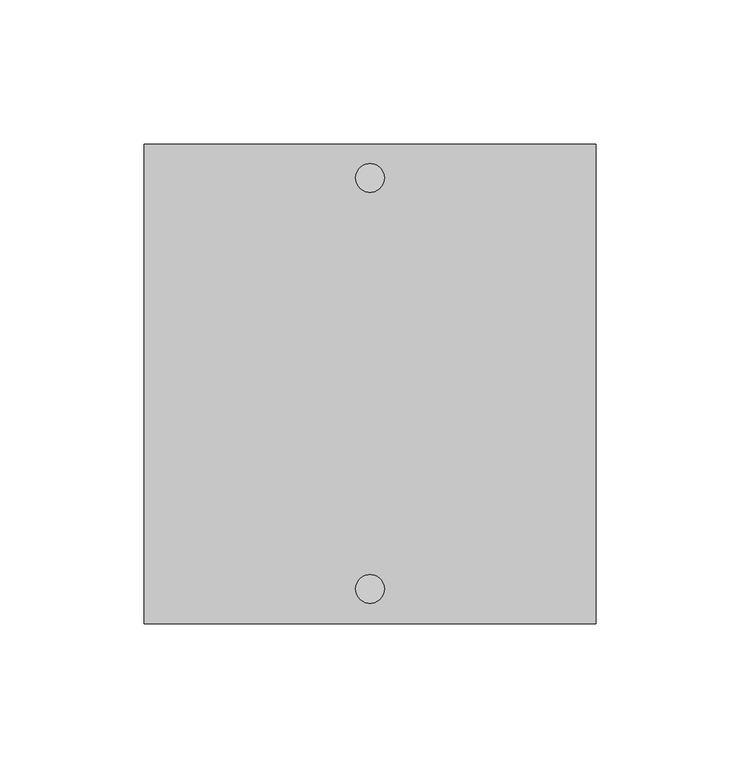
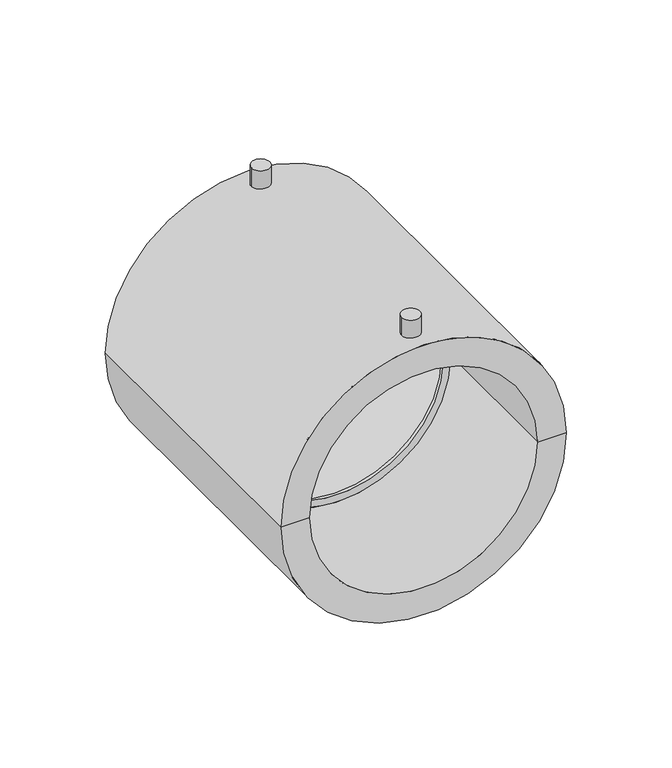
"""IFC4 building model written with IfcOpenShell, lengths in millimetres: pipe fitting geometry, NIRON RED electrico manguito : Estándar."""

from ifc_helpers import new_model, si_unit, point, frame, frame_2d, origin, place, context, project, spatial, polyline, circle_curve, trimmed, segment, composite_curve, outline, extrude, source, transform, mapped, element, save
from ifc_brep_helpers import plane_surface, cylinder_surface, revolved_surface, advanced_brep


def pipe_fitting_718a9c5b(model_context):
    return source(origin(), model_context, "Body", "SolidModel", [
        advanced_brep(
        [(78.25, 166.0, 0.0), (-78.25, 166.0, 0.0), (-62.5, 166.0, 0.0), (62.5, 166.0, 0.0), (78.25, 0.0, 0.0), (-78.25, 0.0, 0.0), (62.5, 0.0, 0.0), (-62.5, 0.0, 0.0), (62.5, 82.0, 0.0), (-62.5, 82.0, 0.0), (58.5, 82.0, 0.0), (-58.5, 82.0, 0.0), (58.5, 84.0, 0.0), (-58.5, 84.0, 0.0), (62.5, 84.0, 0.0), (-62.5, 84.0, 0.0)],
        [
            (0, 1, circle_curve(frame((0.0, 166.0, 0.0), z_axis=(0.0, 1.0, 0.0), x_axis=(-1.0, 0.0, 0.0)), 78.25)),
            (1, 2),
            (2, 3, circle_curve(frame((0.0, 166.0, 0.0), z_axis=(0.0, -1.0, 0.0), x_axis=(-1.0, 0.0, 0.0)), 62.5)),
            (3, 0),
            (1, 0, circle_curve(frame((0.0, 166.0, 0.0), z_axis=(0.0, 1.0, 0.0), x_axis=(-1.0, 0.0, 0.0)), 78.25)),
            (3, 2, circle_curve(frame((0.0, 166.0, 0.0), z_axis=(0.0, -1.0, 0.0), x_axis=(-1.0, 0.0, 0.0)), 62.5)),
            (4, 5, circle_curve(frame((0.0, 0.0, 0.0), z_axis=(0.0, 1.0, 0.0), x_axis=(-1.0, 0.0, 0.0)), 78.25)),
            (5, 1),
            (0, 4),
            (5, 4, circle_curve(frame((0.0, 0.0, 0.0), z_axis=(0.0, 1.0, 0.0), x_axis=(-1.0, 0.0, 0.0)), 78.25)),
            (6, 7, circle_curve(frame((0.0, 0.0, 0.0), z_axis=(0.0, 1.0, 0.0), x_axis=(-1.0, 0.0, 0.0)), 62.5)),
            (7, 5),
            (4, 6),
            (7, 6, circle_curve(frame((0.0, 0.0, 0.0), z_axis=(0.0, 1.0, 0.0), x_axis=(-1.0, 0.0, 0.0)), 62.5)),
            (8, 9, circle_curve(frame((0.0, 82.0, 0.0), z_axis=(0.0, 1.0, 0.0), x_axis=(-1.0, 0.0, 0.0)), 62.5)),
            (9, 7),
            (6, 8),
            (9, 8, circle_curve(frame((0.0, 82.0, 0.0), z_axis=(0.0, 1.0, 0.0), x_axis=(-1.0, 0.0, 0.0)), 62.5)),
            (10, 11, circle_curve(frame((0.0, 82.0, 0.0), z_axis=(0.0, 1.0, 0.0), x_axis=(-1.0, 0.0, 0.0)), 58.5)),
            (11, 9),
            (8, 10),
            (11, 10, circle_curve(frame((0.0, 82.0, 0.0), z_axis=(0.0, 1.0, 0.0), x_axis=(-1.0, 0.0, 0.0)), 58.5)),
            (12, 13, circle_curve(frame((0.0, 84.0, 0.0), z_axis=(0.0, 1.0, 0.0), x_axis=(-1.0, 0.0, 0.0)), 58.5)),
            (13, 11),
            (10, 12),
            (13, 12, circle_curve(frame((0.0, 84.0, 0.0), z_axis=(0.0, 1.0, 0.0), x_axis=(-1.0, 0.0, 0.0)), 58.5)),
            (14, 15, circle_curve(frame((0.0, 84.0, 0.0), z_axis=(0.0, 1.0, 0.0), x_axis=(-1.0, 0.0, 0.0)), 62.5)),
            (15, 13),
            (12, 14),
            (15, 14, circle_curve(frame((0.0, 84.0, 0.0), z_axis=(0.0, 1.0, 0.0), x_axis=(-1.0, 0.0, 0.0)), 62.5)),
            (2, 15),
            (14, 3),
        ],
        [
            plane_surface(frame((0.0, 166.0, 0.0), z_axis=(0.0, 1.0, 0.0), x_axis=(-1.0, 0.0, 0.0))),
            cylinder_surface(frame((0.0, 191.0, 0.0), z_axis=(0.0, -1.0, 0.0), x_axis=(-1.0, 0.0, 0.0)), 78.25),
            plane_surface(frame((0.0, 0.0, 0.0), z_axis=(0.0, -1.0, 0.0), x_axis=(-1.0, 0.0, 0.0))),
            revolved_surface(polyline([(-62.5, 0.0, 0.0), (-62.5, 82.0, 0.0)]), (0.0, 191.0, 0.0), (0.0, -1.0, 0.0)),
            plane_surface(frame((0.0, 82.0, 0.0), z_axis=(0.0, -1.0, 0.0), x_axis=(-1.0, 0.0, 0.0))),
            revolved_surface(polyline([(-58.5, 82.0, 0.0), (-58.5, 84.0, 0.0)]), (0.0, 191.0, 0.0), (0.0, -1.0, 0.0)),
            plane_surface(frame((0.0, 84.0, 0.0), z_axis=(0.0, 1.0, 0.0), x_axis=(-1.0, 0.0, 0.0))),
            revolved_surface(polyline([(-62.5, 84.0, 0.0), (-62.5, 166.0, 0.0)]), (0.0, 191.0, 0.0), (0.0, -1.0, 0.0)),
        ],
        [
            (0, [[1, 2, 3, 4]]),
            (0, [[5, -4, 6, -2]]),
            (1, [[7, 8, -1, 9]]),
            (1, [[10, -9, -5, -8]]),
            (2, [[11, 12, -7, 13]]),
            (2, [[14, -13, -10, -12]]),
            (3, [[15, 16, -11, 17]]),
            (3, [[18, -17, -14, -16]]),
            (4, [[19, 20, -15, 21]]),
            (4, [[22, -21, -18, -20]]),
            (5, [[23, 24, -19, 25]]),
            (5, [[26, -25, -22, -24]]),
            (6, [[27, 28, -23, 29]]),
            (6, [[30, -29, -26, -28]]),
            (7, [[-3, 31, -27, 32]]),
            (7, [[-6, -32, -30, -31]]),
        ],
    ),
        extrude(outline(composite_curve([segment(trimmed(circle_curve(frame_2d((0.0, 12.0)), 5.0), [point((-5.0, 12.0))], [point((5.0, 12.0))], False, "CARTESIAN"), True, "CONTINUOUS"), segment(trimmed(circle_curve(frame_2d((0.0, 12.0)), 5.0), [point((5.0, 12.0))], [point((-5.0, 12.0))], False, "CARTESIAN"), True, "CONTINUOUS")], self_intersect=False)), frame((0.0, 0.0, 75.25), z_axis=(0.0, 0.0, 1.0), x_axis=(1.0, 0.0, 0.0)), (0.0, 0.0, 1.0), 13.5),
        extrude(outline(composite_curve([segment(trimmed(circle_curve(frame_2d((0.0, 154.3742842)), 5.0), [point((-5.0, 154.3742842))], [point((5.0, 154.3742842))], False, "CARTESIAN"), True, "CONTINUOUS"), segment(trimmed(circle_curve(frame_2d((0.0, 154.3742842)), 5.0), [point((5.0, 154.3742842))], [point((-5.0, 154.3742842))], False, "CARTESIAN"), True, "CONTINUOUS")], self_intersect=False)), frame((0.0, 0.0, 75.25), z_axis=(0.0, 0.0, 1.0), x_axis=(1.0, 0.0, 0.0)), (0.0, 0.0, 1.0), 13.5),
    ])


if __name__ == "__main__":
    model = new_model("IFC4")
    model_context = context("Model", 3, world=origin())
    ifc_project = project(units=[si_unit("LENGTHUNIT", "METRE", prefix="MILLI")], contexts=[model_context])
    site = spatial("IfcSite", under=ifc_project)
    building = spatial("IfcBuilding", under=site)
    placement = place(None, origin())
    pipe_fitting_shape = pipe_fitting_718a9c5b(model_context)
    element("IfcPipeFitting", 1, ObjectType="NIRON RED electrico manguito : Estándar", at=placement, inside=building, context=model_context, shape_type="MappedRepresentation", body=[
        mapped(pipe_fitting_shape, transform((0.0, 0.0, 0.0), x_axis=(1.0, 0.0, 0.0), y_axis=(0.0, 1.0, 0.0), z_axis=(0.0, 0.0, 1.0))),
    ])
    save(model, "model.ifc")
